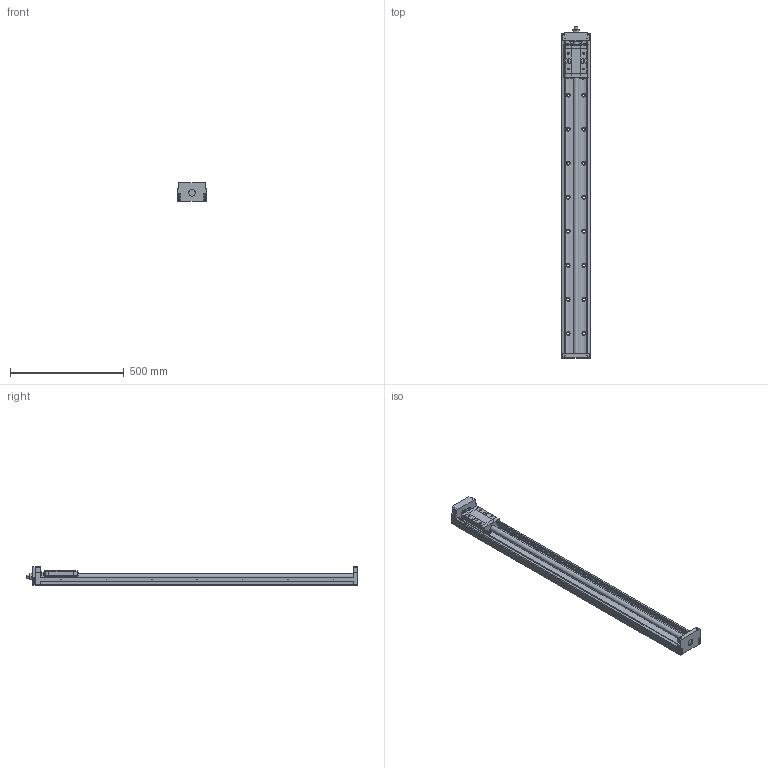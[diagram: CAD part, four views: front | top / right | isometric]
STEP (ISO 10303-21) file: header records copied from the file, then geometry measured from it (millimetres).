
FILE_DESCRIPTION(('no description'),'unknown implementation level');
FILE_NAME('KK13025P1380A1H0000_FILE_57.stp',' ',('HIWIN GmbH'),('CADClick - KiM GmbH - www.kimweb.de'),'unknown preprocess','ACIS','unknown authorization');
FILE_SCHEMA(('automotive_design'));
Length unit declared in the file: millimetre
Products named in the file (2): KK130_FILE; KK13025P1380A1H0000_FILE
Bounding box: 130 x 1462 x 83 mm (x, y, z)
Volume: 5434902.8 mm3; surface area: 775756.3 mm2
Topology: 2 solids, 13 shells, 778 faces, 1916 edges, 1243 vertices
Faces by surface type: plane 468, cylinder 268, torus 38, cone 2, sphere 2
Entity records: 45242 total; most frequent: DIRECTION 4158, CARTESIAN_POINT 4045, STYLED_ITEM 3937, PRESENTATION_STYLE_ASSIGNMENT 3937, COLOUR_RGB 3937, ORIENTED_EDGE 3828, EDGE_CURVE 1914, CURVE_STYLE 1914
